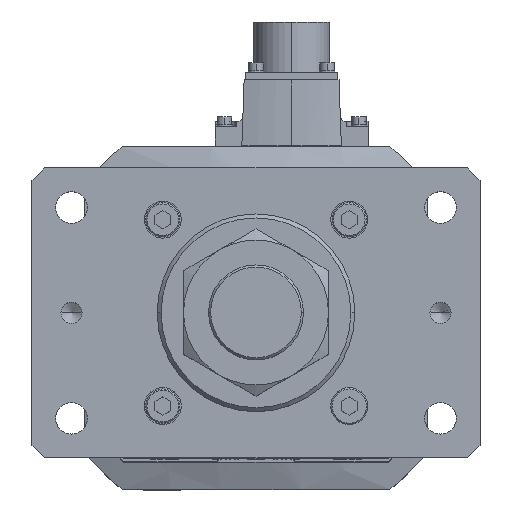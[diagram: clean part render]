
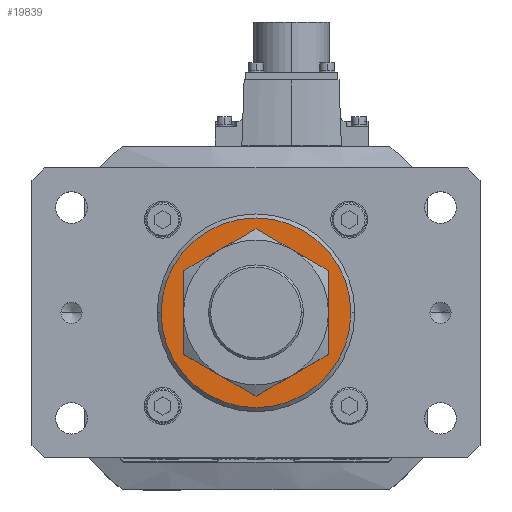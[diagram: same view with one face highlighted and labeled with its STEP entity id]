
A CAD part, top view. The second image highlights one B-rep face of the part: STEP entity #19839.
In plain terms, the highlighted planar face has unit normal (0, 0, 1).
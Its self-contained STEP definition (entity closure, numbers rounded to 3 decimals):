
#210 = CIRCLE ( 'NONE', #6216, 36. ) ;
#525 = CIRCLE ( 'NONE', #9598, 23. ) ;
#789 = AXIS2_PLACEMENT_3D ( 'NONE', #21019, #32165, #3740 ) ;
#2442 = CARTESIAN_POINT ( 'NONE',  ( 36., 0., 896. ) ) ;
#3740 = DIRECTION ( 'NONE',  ( 1., 0., 0. ) ) ;
#6216 = AXIS2_PLACEMENT_3D ( 'NONE', #14825, #15087, #29528 ) ;
#6313 = PLANE ( 'NONE',  #22018 ) ;
#9262 = CARTESIAN_POINT ( 'NONE',  ( 0., 0., 896. ) ) ;
#9598 = AXIS2_PLACEMENT_3D ( 'NONE', #9694, #12951, #32750 ) ;
#9694 = CARTESIAN_POINT ( 'NONE',  ( 0., 0., 896. ) ) ;
#12516 = AXIS2_PLACEMENT_3D ( 'NONE', #9262, #29317, #26682 ) ;
#12673 = CARTESIAN_POINT ( 'NONE',  ( 23., 0., 896. ) ) ;
#12951 = DIRECTION ( 'NONE',  ( 0., 0., -1. ) ) ;
#13283 = ORIENTED_EDGE ( 'NONE', *, *, #34233, .T. ) ;
#14765 = EDGE_CURVE ( 'NONE', #35877, #25354, #525, .T. ) ;
#14825 = CARTESIAN_POINT ( 'NONE',  ( 0., 0., 896. ) ) ;
#15087 = DIRECTION ( 'NONE',  ( 0., 0., 1. ) ) ;
#17018 = ORIENTED_EDGE ( 'NONE', *, *, #14765, .T. ) ;
#17318 = CARTESIAN_POINT ( 'NONE',  ( 0., 0., 896. ) ) ;
#18556 = EDGE_LOOP ( 'NONE', ( #17018, #29564 ) ) ;
#19839 = ADVANCED_FACE ( 'NONE', ( #34912, #24627 ), #6313, .T. ) ;
#21019 = CARTESIAN_POINT ( 'NONE',  ( 0., 0., 896. ) ) ;
#21350 = CIRCLE ( 'NONE', #789, 36. ) ;
#22018 = AXIS2_PLACEMENT_3D ( 'NONE', #17318, #23255, #26119 ) ;
#23255 = DIRECTION ( 'NONE',  ( 0., 0., 1. ) ) ;
#23302 = EDGE_LOOP ( 'NONE', ( #24504, #13283 ) ) ;
#23745 = VERTEX_POINT ( 'NONE', #28964 ) ;
#24504 = ORIENTED_EDGE ( 'NONE', *, *, #29246, .T. ) ;
#24627 = FACE_OUTER_BOUND ( 'NONE', #23302, .T. ) ;
#25354 = VERTEX_POINT ( 'NONE', #27932 ) ;
#26119 = DIRECTION ( 'NONE',  ( 1., 0., 0. ) ) ;
#26682 = DIRECTION ( 'NONE',  ( 1., 0., 0. ) ) ;
#27932 = CARTESIAN_POINT ( 'NONE',  ( -23., 0., 896. ) ) ;
#28705 = EDGE_CURVE ( 'NONE', #25354, #35877, #29930, .T. ) ;
#28964 = CARTESIAN_POINT ( 'NONE',  ( -36., 0., 896. ) ) ;
#29246 = EDGE_CURVE ( 'NONE', #23745, #30494, #21350, .T. ) ;
#29317 = DIRECTION ( 'NONE',  ( 0., 0., -1. ) ) ;
#29528 = DIRECTION ( 'NONE',  ( 1., 0., 0. ) ) ;
#29564 = ORIENTED_EDGE ( 'NONE', *, *, #28705, .T. ) ;
#29930 = CIRCLE ( 'NONE', #12516, 23. ) ;
#30494 = VERTEX_POINT ( 'NONE', #2442 ) ;
#32165 = DIRECTION ( 'NONE',  ( 0., 0., 1. ) ) ;
#32750 = DIRECTION ( 'NONE',  ( 1., 0., 0. ) ) ;
#34233 = EDGE_CURVE ( 'NONE', #30494, #23745, #210, .T. ) ;
#34912 = FACE_BOUND ( 'NONE', #18556, .T. ) ;
#35877 = VERTEX_POINT ( 'NONE', #12673 ) ;
